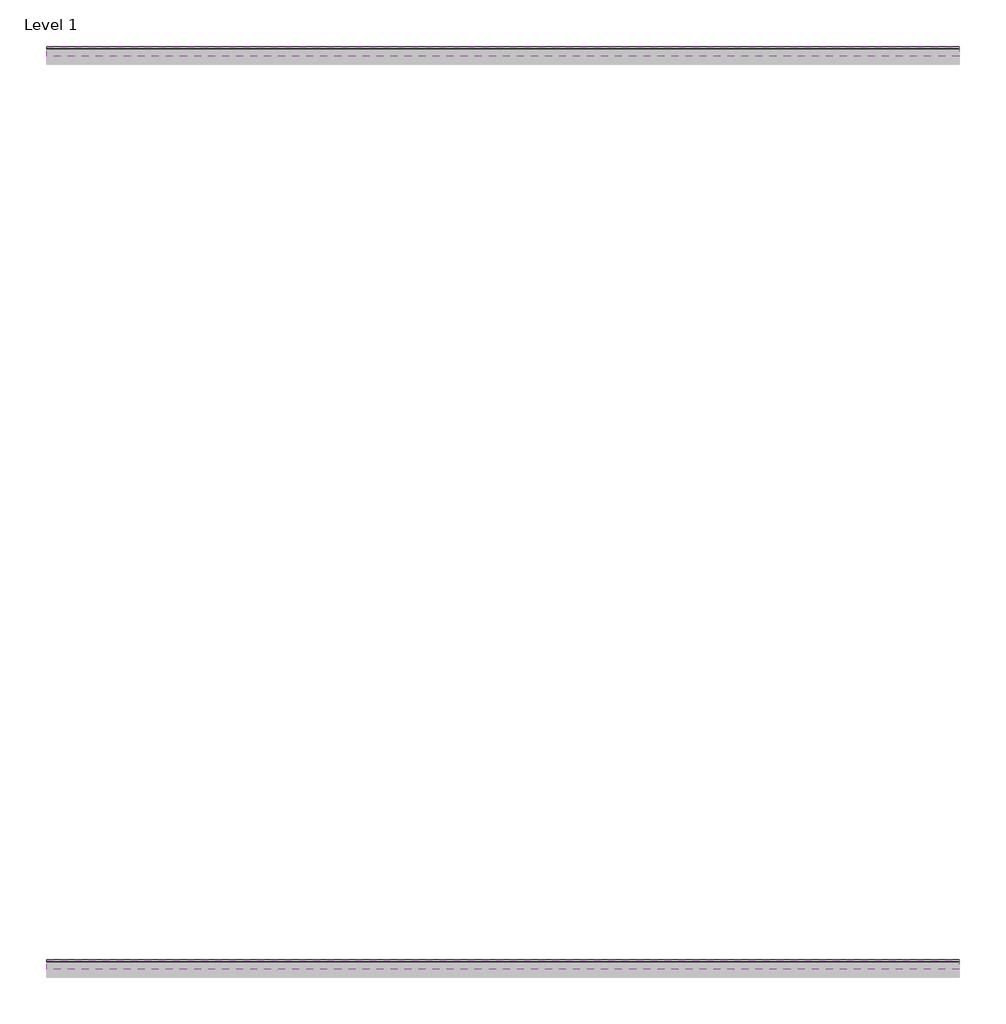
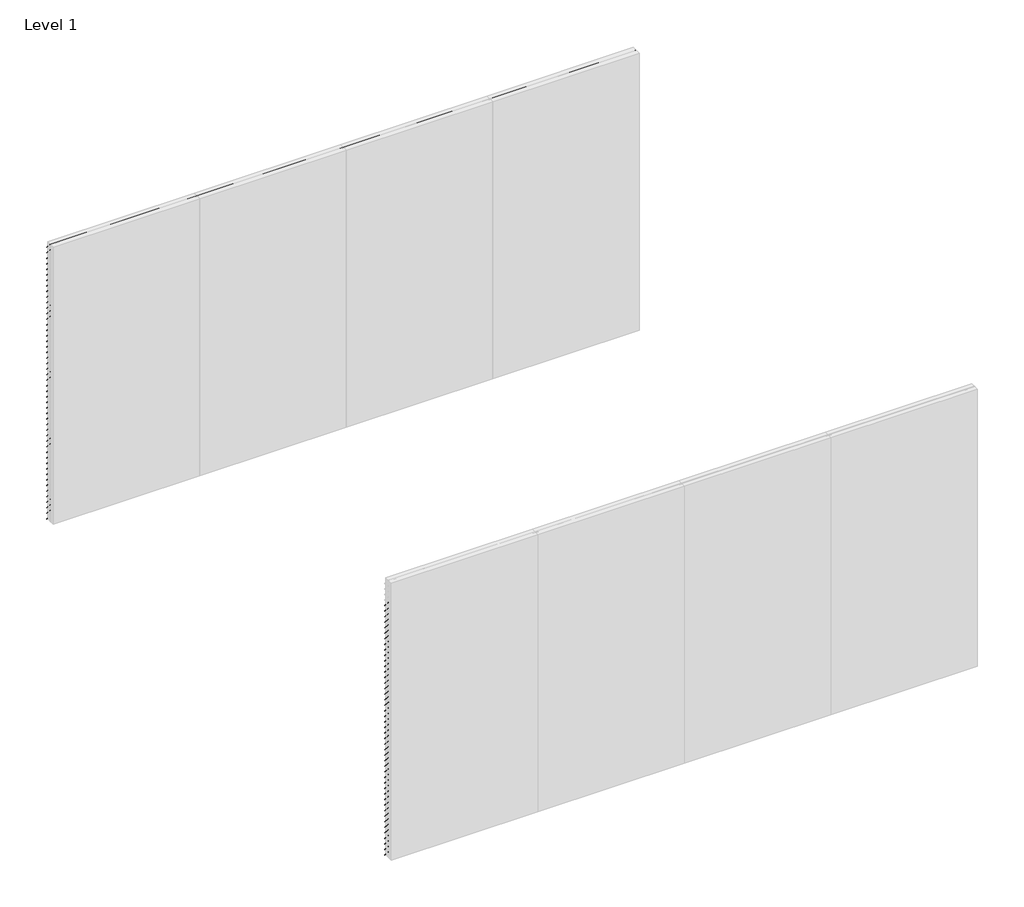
# One storey, part 3 of 3: 96 proxies.
"""IFC4 building model written with IfcOpenShell, lengths in millimetres."""

import ifcopenshell
import ifcopenshell.guid

model = None  # the IFC model being written
_history = None  # IfcOwnerHistory: only IFC2X3 demands one
_inside = {}  # id of a spatial element -> (the spatial element, [elements in it])
_under = {}  # id of a project, library or spatial element -> (it, [spatial elements below it])
_declared = {}  # id of a project -> (the project, [libraries it declares])
_typed = {}  # id of a type object -> (the type object, [elements of that type])
_made_of = {}  # id of a material, layer set ... -> (it, [elements and type objects made of it])


def new_model(schema):
    """Start an empty IFC model of exactly this schema.

    Asked for "IFC4X3", IfcOpenShell would pick the latest addendum, in which some entities
    have other attributes; the version numbers below select the first issue.
    IFC2X3 requires an IfcOwnerHistory on every rooted entity: one is made here for all.
    """
    global model, _history
    if schema == "IFC4X3":
        model = ifcopenshell.file(schema_version=(4, 3, 0, 0))
    else:
        model = ifcopenshell.file(schema=schema)
    _inside.clear()
    _under.clear()
    _declared.clear()
    _typed.clear()
    _made_of.clear()
    _history = None
    if model.schema == "IFC2X3":
        org = make("IfcOrganization", Name="unknown")
        user = make(
            "IfcPersonAndOrganization",
            ThePerson=make("IfcPerson", FamilyName="unknown"),
            TheOrganization=org,
        )
        app = make(
            "IfcApplication",
            ApplicationDeveloper=org,
            Version="unknown",
            ApplicationFullName="unknown",
            ApplicationIdentifier="unknown",
        )
        _history = make(
            "IfcOwnerHistory",
            OwningUser=user,
            OwningApplication=app,
            ChangeAction="ADDED",
            CreationDate=0,
        )
    return model


def make(cls, **values):
    """One entity of the class cls with the attributes given. An attribute that is None is left unset."""
    return model.create_entity(
        cls, **{name: value for name, value in values.items() if value is not None}
    )


def rooted(cls, **values):
    """An entity with a GlobalId (a new one), such as an element, a storey or a relation."""
    return make(cls, GlobalId=ifcopenshell.guid.new(), OwnerHistory=_history, **values)


def si_unit(unit_type, name, prefix=None):
    """IfcSIUnit, for example si_unit("LENGTHUNIT", "METRE", prefix="MILLI")."""
    return make("IfcSIUnit", UnitType=unit_type, Prefix=prefix, Name=name)


def assignment(units):
    """IfcUnitAssignment: the units of a project."""
    return None if units is None else make("IfcUnitAssignment", Units=units)


def point(xyz):
    """IfcCartesianPoint."""
    return None if xyz is None else make("IfcCartesianPoint", Coordinates=xyz)


def direction(xyz):
    """IfcDirection."""
    return None if xyz is None else make("IfcDirection", DirectionRatios=xyz)


def frame(location, z_axis=None, x_axis=None):
    """IfcAxis2Placement3D, a coordinate frame: its origin and axes. An axis left out is left unset."""
    return make(
        "IfcAxis2Placement3D",
        Location=point(location),
        Axis=direction(z_axis),
        RefDirection=direction(x_axis),
    )


def origin():
    """The frame at (0, 0, 0) with its axes left unset."""
    return frame((0.0, 0.0, 0.0))


def place(relative_to, where):
    """IfcLocalPlacement: puts the frame where relative to a parent placement (None: the world)."""
    return make(
        "IfcLocalPlacement", PlacementRelTo=relative_to, RelativePlacement=where
    )


def context(
    kind, dimensions, precision=None, world=None, true_north=None, identifier=None
):
    """IfcGeometricRepresentationContext, for example the 3D "Model" context."""
    return make(
        "IfcGeometricRepresentationContext",
        ContextIdentifier=identifier,
        ContextType=kind,
        CoordinateSpaceDimension=dimensions,
        Precision=precision,
        WorldCoordinateSystem=world,
        TrueNorth=true_north,
    )


def project(units=None, contexts=None):
    """IfcProject with its units and contexts."""
    return rooted(
        "IfcProject",
        Name="project",
        RepresentationContexts=contexts,
        UnitsInContext=assignment(units),
    )


def spatial(cls, under=None, at=None, **own):
    """A site, building, storey or space (cls), placed at a placement, below another one or the project."""
    s = rooted(cls, ObjectPlacement=at, **own)
    if under is not None:
        _under.setdefault(under.id(), (under, []))[1].append(s)
    return s


def polyline(points):
    """IfcPolyline through the points."""
    return make("IfcPolyline", Points=[point(p) for p in points])


def outline(outer, holes=None, kind="AREA"):
    """IfcArbitraryClosedProfileDef: a profile drawn as a closed curve; with holes, ...WithVoids."""
    if holes is None:
        return make("IfcArbitraryClosedProfileDef", ProfileType=kind, OuterCurve=outer)
    return make(
        "IfcArbitraryProfileDefWithVoids",
        ProfileType=kind,
        OuterCurve=outer,
        InnerCurves=holes,
    )


def extrude(swept, where, along, depth):
    """IfcExtrudedAreaSolid: the profile swept, set in the frame where, extruded along a direction by depth."""
    return make(
        "IfcExtrudedAreaSolid",
        SweptArea=swept,
        Position=where,
        ExtrudedDirection=direction(along),
        Depth=depth,
    )


def shape(context_of_items, identifier, shape_type, items):
    """IfcShapeRepresentation: the items that make up one representation, for example the "Body"."""
    return make(
        "IfcShapeRepresentation",
        ContextOfItems=context_of_items,
        RepresentationIdentifier=identifier,
        RepresentationType=shape_type,
        Items=items,
    )


def made_of(thing, what):
    """Note that an element or type object is made of a material, layer set ...; save() writes the relation."""
    if what is not None:
        _made_of.setdefault(what.id(), (what, []))[1].append(thing)
    return thing


def element(
    cls,
    number,
    at=None,
    inside=None,
    cuts=None,
    type_object=None,
    material=None,
    context=None,
    identifier="Body",
    shape_type=None,
    held_by="IfcProductDefinitionShape",
    body=None,
    shapes=None,
    **own,
):
    """One element of the class cls, such as IfcWall. Its Tag is "e" and its number.

    at: its placement. inside: the storey or other place that contains it. cuts: it is an
    opening in that element (IfcRelVoidsElement). A single representation is given by context,
    identifier, shape_type and body (its items); several are given by shapes. held_by: the class
    of the entity that holds the representations. save() writes the other relations.
    """
    e = rooted(cls, Tag="e%d" % number, ObjectPlacement=at, **own)
    if body is not None:
        shapes = [shape(context, identifier, shape_type, body)]
    if shapes is not None:
        e.Representation = make(held_by, Representations=shapes)
    if inside is not None:
        _inside.setdefault(inside.id(), (inside, []))[1].append(e)
    if cuts is not None:
        rooted(
            "IfcRelVoidsElement", RelatingBuildingElement=cuts, RelatedOpeningElement=e
        )
    if type_object is not None:
        _typed.setdefault(type_object.id(), (type_object, []))[1].append(e)
    return made_of(e, material)


def aggregate(whole, parts):
    """IfcRelAggregates: a whole, such as a stair, and the parts it consists of."""
    return rooted("IfcRelAggregates", RelatingObject=whole, RelatedObjects=parts)


def save(model, path):
    """Write the relations noted so far, then the file.

    IfcRelAggregates (storeys below a building ...), IfcRelContainedInSpatialStructure (elements
    in a storey), IfcRelDefinesByType, IfcRelAssociatesMaterial and IfcRelDeclares: one each for
    every whole, place, type object, material and project.
    """
    for whole, parts in _under.values():
        aggregate(whole, parts)
    for where, things in _inside.values():
        rooted(
            "IfcRelContainedInSpatialStructure",
            RelatedElements=things,
            RelatingStructure=where,
        )
    for kind, things in _typed.values():
        rooted("IfcRelDefinesByType", RelatedObjects=things, RelatingType=kind)
    for what, things in _made_of.values():
        rooted("IfcRelAssociatesMaterial", RelatedObjects=things, RelatingMaterial=what)
    for by, libraries in _declared.values():
        rooted("IfcRelDeclares", RelatingContext=by, RelatedDefinitions=libraries)
    model.write(path)


model = new_model("IFC4")

# Units and contexts
model_context = context("Model", 3, world=origin())
ifc_project = project(units=[si_unit("LENGTHUNIT", "METRE", prefix="MILLI")], contexts=[model_context])

# Site, building, storey
site = spatial("IfcSite", under=ifc_project)
building = spatial("IfcBuilding", under=site)
storey = spatial("IfcBuildingStorey", under=building, Name="Level 1", Elevation=0.0)

# Proxies
placement = place(None, origin())
element("IfcBuildingElementProxy", 1, Name="Wall Sweeps", at=placement, inside=storey, context=model_context, shape_type="SweptSolid", body=[
    extrude(outline(polyline([(-1995.0, 3000.0), (-1995.0, 2998.0), (-1933.0, 2929.0), (-1933.0, 2926.0), (-1997.0, 2997.2258065), (-1997.0, 3000.0), (-1995.0, 3000.0)])), frame((0.0, 0.0, 0.0), z_axis=(1.0, 0.0, 0.0), x_axis=(0.0, 1.0, 0.0)), (0.0, 0.0, 1.0), 6000.0),
])
element("IfcBuildingElementProxy", 2, Name="Wall Sweeps", at=placement, inside=storey, context=model_context, shape_type="SweptSolid", body=[
    extrude(outline(polyline([(-1995.0, 2940.0), (-1995.0, 2938.0), (-1933.0, 2869.0), (-1933.0, 2866.0), (-1997.0, 2937.2258065), (-1997.0, 2940.0), (-1995.0, 2940.0)])), frame((0.0, 0.0, 0.0), z_axis=(1.0, 0.0, 0.0), x_axis=(0.0, 1.0, 0.0)), (0.0, 0.0, 1.0), 6000.0),
])
element("IfcBuildingElementProxy", 3, Name="Wall Sweeps", at=placement, inside=storey, context=model_context, shape_type="SweptSolid", body=[
    extrude(outline(polyline([(-1995.0, 2880.0), (-1995.0, 2878.0), (-1933.0, 2809.0), (-1933.0, 2806.0), (-1997.0, 2877.2258065), (-1997.0, 2880.0), (-1995.0, 2880.0)])), frame((0.0, 0.0, 0.0), z_axis=(1.0, 0.0, 0.0), x_axis=(0.0, 1.0, 0.0)), (0.0, 0.0, 1.0), 6000.0),
])
element("IfcBuildingElementProxy", 4, Name="Wall Sweeps", at=placement, inside=storey, context=model_context, shape_type="SweptSolid", body=[
    extrude(outline(polyline([(-1995.0, 2820.0), (-1995.0, 2818.0), (-1933.0, 2749.0), (-1933.0, 2746.0), (-1997.0, 2817.2258065), (-1997.0, 2820.0), (-1995.0, 2820.0)])), frame((0.0, 0.0, 0.0), z_axis=(1.0, 0.0, 0.0), x_axis=(0.0, 1.0, 0.0)), (0.0, 0.0, 1.0), 6000.0),
])
element("IfcBuildingElementProxy", 5, Name="Wall Sweeps", at=placement, inside=storey, context=model_context, shape_type="SweptSolid", body=[
    extrude(outline(polyline([(-1995.0, 2760.0), (-1995.0, 2758.0), (-1933.0, 2689.0), (-1933.0, 2686.0), (-1997.0, 2757.2258065), (-1997.0, 2760.0), (-1995.0, 2760.0)])), frame((0.0, 0.0, 0.0), z_axis=(1.0, 0.0, 0.0), x_axis=(0.0, 1.0, 0.0)), (0.0, 0.0, 1.0), 6000.0),
])
element("IfcBuildingElementProxy", 6, Name="Wall Sweeps", at=placement, inside=storey, context=model_context, shape_type="SweptSolid", body=[
    extrude(outline(polyline([(-1995.0, 2700.0), (-1995.0, 2698.0), (-1933.0, 2629.0), (-1933.0, 2626.0), (-1997.0, 2697.2258065), (-1997.0, 2700.0), (-1995.0, 2700.0)])), frame((0.0, 0.0, 0.0), z_axis=(1.0, 0.0, 0.0), x_axis=(0.0, 1.0, 0.0)), (0.0, 0.0, 1.0), 6000.0),
])
element("IfcBuildingElementProxy", 7, Name="Wall Sweeps", at=placement, inside=storey, context=model_context, shape_type="SweptSolid", body=[
    extrude(outline(polyline([(-1995.0, 2640.0), (-1995.0, 2638.0), (-1933.0, 2569.0), (-1933.0, 2566.0), (-1997.0, 2637.2258065), (-1997.0, 2640.0), (-1995.0, 2640.0)])), frame((0.0, 0.0, 0.0), z_axis=(1.0, 0.0, 0.0), x_axis=(0.0, 1.0, 0.0)), (0.0, 0.0, 1.0), 6000.0),
])
element("IfcBuildingElementProxy", 8, Name="Wall Sweeps", at=placement, inside=storey, context=model_context, shape_type="SweptSolid", body=[
    extrude(outline(polyline([(-1995.0, 2580.0), (-1995.0, 2578.0), (-1933.0, 2509.0), (-1933.0, 2506.0), (-1997.0, 2577.2258065), (-1997.0, 2580.0), (-1995.0, 2580.0)])), frame((0.0, 0.0, 0.0), z_axis=(1.0, 0.0, 0.0), x_axis=(0.0, 1.0, 0.0)), (0.0, 0.0, 1.0), 6000.0),
])
element("IfcBuildingElementProxy", 9, Name="Wall Sweeps", at=placement, inside=storey, context=model_context, shape_type="SweptSolid", body=[
    extrude(outline(polyline([(-1995.0, 2520.0), (-1995.0, 2518.0), (-1933.0, 2449.0), (-1933.0, 2446.0), (-1997.0, 2517.2258065), (-1997.0, 2520.0), (-1995.0, 2520.0)])), frame((0.0, 0.0, 0.0), z_axis=(1.0, 0.0, 0.0), x_axis=(0.0, 1.0, 0.0)), (0.0, 0.0, 1.0), 6000.0),
])
element("IfcBuildingElementProxy", 10, Name="Wall Sweeps", at=placement, inside=storey, context=model_context, shape_type="SweptSolid", body=[
    extrude(outline(polyline([(-1995.0, 2460.0), (-1995.0, 2458.0), (-1933.0, 2389.0), (-1933.0, 2386.0), (-1997.0, 2457.2258065), (-1997.0, 2460.0), (-1995.0, 2460.0)])), frame((0.0, 0.0, 0.0), z_axis=(1.0, 0.0, 0.0), x_axis=(0.0, 1.0, 0.0)), (0.0, 0.0, 1.0), 6000.0),
])
element("IfcBuildingElementProxy", 11, Name="Wall Sweeps", at=placement, inside=storey, context=model_context, shape_type="SweptSolid", body=[
    extrude(outline(polyline([(-1995.0, 2400.0), (-1995.0, 2398.0), (-1933.0, 2329.0), (-1933.0, 2326.0), (-1997.0, 2397.2258065), (-1997.0, 2400.0), (-1995.0, 2400.0)])), frame((0.0, 0.0, 0.0), z_axis=(1.0, 0.0, 0.0), x_axis=(0.0, 1.0, 0.0)), (0.0, 0.0, 1.0), 6000.0),
])
element("IfcBuildingElementProxy", 12, Name="Wall Sweeps", at=placement, inside=storey, context=model_context, shape_type="SweptSolid", body=[
    extrude(outline(polyline([(-1995.0, 2340.0), (-1995.0, 2338.0), (-1933.0, 2269.0), (-1933.0, 2266.0), (-1997.0, 2337.2258065), (-1997.0, 2340.0), (-1995.0, 2340.0)])), frame((0.0, 0.0, 0.0), z_axis=(1.0, 0.0, 0.0), x_axis=(0.0, 1.0, 0.0)), (0.0, 0.0, 1.0), 6000.0),
])
element("IfcBuildingElementProxy", 13, Name="Wall Sweeps", at=placement, inside=storey, context=model_context, shape_type="SweptSolid", body=[
    extrude(outline(polyline([(-1995.0, 2280.0), (-1995.0, 2278.0), (-1933.0, 2209.0), (-1933.0, 2206.0), (-1997.0, 2277.2258065), (-1997.0, 2280.0), (-1995.0, 2280.0)])), frame((0.0, 0.0, 0.0), z_axis=(1.0, 0.0, 0.0), x_axis=(0.0, 1.0, 0.0)), (0.0, 0.0, 1.0), 6000.0),
])
element("IfcBuildingElementProxy", 14, Name="Wall Sweeps", at=placement, inside=storey, context=model_context, shape_type="SweptSolid", body=[
    extrude(outline(polyline([(-1995.0, 2220.0), (-1995.0, 2218.0), (-1933.0, 2149.0), (-1933.0, 2146.0), (-1997.0, 2217.2258065), (-1997.0, 2220.0), (-1995.0, 2220.0)])), frame((0.0, 0.0, 0.0), z_axis=(1.0, 0.0, 0.0), x_axis=(0.0, 1.0, 0.0)), (0.0, 0.0, 1.0), 6000.0),
])
element("IfcBuildingElementProxy", 15, Name="Wall Sweeps", at=placement, inside=storey, context=model_context, shape_type="SweptSolid", body=[
    extrude(outline(polyline([(-1995.0, 2160.0), (-1995.0, 2158.0), (-1933.0, 2089.0), (-1933.0, 2086.0), (-1997.0, 2157.2258065), (-1997.0, 2160.0), (-1995.0, 2160.0)])), frame((0.0, 0.0, 0.0), z_axis=(1.0, 0.0, 0.0), x_axis=(0.0, 1.0, 0.0)), (0.0, 0.0, 1.0), 6000.0),
])
element("IfcBuildingElementProxy", 16, Name="Wall Sweeps", at=placement, inside=storey, context=model_context, shape_type="SweptSolid", body=[
    extrude(outline(polyline([(-1995.0, 2100.0), (-1995.0, 2098.0), (-1933.0, 2029.0), (-1933.0, 2026.0), (-1997.0, 2097.2258065), (-1997.0, 2100.0), (-1995.0, 2100.0)])), frame((0.0, 0.0, 0.0), z_axis=(1.0, 0.0, 0.0), x_axis=(0.0, 1.0, 0.0)), (0.0, 0.0, 1.0), 6000.0),
])
element("IfcBuildingElementProxy", 17, Name="Wall Sweeps", at=placement, inside=storey, context=model_context, shape_type="SweptSolid", body=[
    extrude(outline(polyline([(-1995.0, 2040.0), (-1995.0, 2038.0), (-1933.0, 1969.0), (-1933.0, 1966.0), (-1997.0, 2037.2258065), (-1997.0, 2040.0), (-1995.0, 2040.0)])), frame((0.0, 0.0, 0.0), z_axis=(1.0, 0.0, 0.0), x_axis=(0.0, 1.0, 0.0)), (0.0, 0.0, 1.0), 6000.0),
])
element("IfcBuildingElementProxy", 18, Name="Wall Sweeps", at=placement, inside=storey, context=model_context, shape_type="SweptSolid", body=[
    extrude(outline(polyline([(-1995.0, 1980.0), (-1995.0, 1978.0), (-1933.0, 1909.0), (-1933.0, 1906.0), (-1997.0, 1977.2258065), (-1997.0, 1980.0), (-1995.0, 1980.0)])), frame((0.0, 0.0, 0.0), z_axis=(1.0, 0.0, 0.0), x_axis=(0.0, 1.0, 0.0)), (0.0, 0.0, 1.0), 6000.0),
])
element("IfcBuildingElementProxy", 19, Name="Wall Sweeps", at=placement, inside=storey, context=model_context, shape_type="SweptSolid", body=[
    extrude(outline(polyline([(-1995.0, 1920.0), (-1995.0, 1918.0), (-1933.0, 1849.0), (-1933.0, 1846.0), (-1997.0, 1917.2258065), (-1997.0, 1920.0), (-1995.0, 1920.0)])), frame((0.0, 0.0, 0.0), z_axis=(1.0, 0.0, 0.0), x_axis=(0.0, 1.0, 0.0)), (0.0, 0.0, 1.0), 6000.0),
])
element("IfcBuildingElementProxy", 20, Name="Wall Sweeps", at=placement, inside=storey, context=model_context, shape_type="SweptSolid", body=[
    extrude(outline(polyline([(-1995.0, 1860.0), (-1995.0, 1858.0), (-1933.0, 1789.0), (-1933.0, 1786.0), (-1997.0, 1857.2258065), (-1997.0, 1860.0), (-1995.0, 1860.0)])), frame((0.0, 0.0, 0.0), z_axis=(1.0, 0.0, 0.0), x_axis=(0.0, 1.0, 0.0)), (0.0, 0.0, 1.0), 6000.0),
])
element("IfcBuildingElementProxy", 21, Name="Wall Sweeps", at=placement, inside=storey, context=model_context, shape_type="SweptSolid", body=[
    extrude(outline(polyline([(-1995.0, 1800.0), (-1995.0, 1798.0), (-1933.0, 1729.0), (-1933.0, 1726.0), (-1997.0, 1797.2258065), (-1997.0, 1800.0), (-1995.0, 1800.0)])), frame((0.0, 0.0, 0.0), z_axis=(1.0, 0.0, 0.0), x_axis=(0.0, 1.0, 0.0)), (0.0, 0.0, 1.0), 6000.0),
])
element("IfcBuildingElementProxy", 22, Name="Wall Sweeps", at=placement, inside=storey, context=model_context, shape_type="SweptSolid", body=[
    extrude(outline(polyline([(-1995.0, 1740.0), (-1995.0, 1738.0), (-1933.0, 1669.0), (-1933.0, 1666.0), (-1997.0, 1737.2258065), (-1997.0, 1740.0), (-1995.0, 1740.0)])), frame((0.0, 0.0, 0.0), z_axis=(1.0, 0.0, 0.0), x_axis=(0.0, 1.0, 0.0)), (0.0, 0.0, 1.0), 6000.0),
])
element("IfcBuildingElementProxy", 23, Name="Wall Sweeps", at=placement, inside=storey, context=model_context, shape_type="SweptSolid", body=[
    extrude(outline(polyline([(-1995.0, 1680.0), (-1995.0, 1678.0), (-1933.0, 1609.0), (-1933.0, 1606.0), (-1997.0, 1677.2258065), (-1997.0, 1680.0), (-1995.0, 1680.0)])), frame((0.0, 0.0, 0.0), z_axis=(1.0, 0.0, 0.0), x_axis=(0.0, 1.0, 0.0)), (0.0, 0.0, 1.0), 6000.0),
])
element("IfcBuildingElementProxy", 24, Name="Wall Sweeps", at=placement, inside=storey, context=model_context, shape_type="SweptSolid", body=[
    extrude(outline(polyline([(-1995.0, 1620.0), (-1995.0, 1618.0), (-1933.0, 1549.0), (-1933.0, 1546.0), (-1997.0, 1617.2258065), (-1997.0, 1620.0), (-1995.0, 1620.0)])), frame((0.0, 0.0, 0.0), z_axis=(1.0, 0.0, 0.0), x_axis=(0.0, 1.0, 0.0)), (0.0, 0.0, 1.0), 6000.0),
])
element("IfcBuildingElementProxy", 25, Name="Wall Sweeps", at=placement, inside=storey, context=model_context, shape_type="SweptSolid", body=[
    extrude(outline(polyline([(-1995.0, 1560.0), (-1995.0, 1558.0), (-1933.0, 1489.0), (-1933.0, 1486.0), (-1997.0, 1557.2258065), (-1997.0, 1560.0), (-1995.0, 1560.0)])), frame((0.0, 0.0, 0.0), z_axis=(1.0, 0.0, 0.0), x_axis=(0.0, 1.0, 0.0)), (0.0, 0.0, 1.0), 6000.0),
])
element("IfcBuildingElementProxy", 26, Name="Wall Sweeps", at=placement, inside=storey, context=model_context, shape_type="SweptSolid", body=[
    extrude(outline(polyline([(-1995.0, 1500.0), (-1995.0, 1498.0), (-1933.0, 1429.0), (-1933.0, 1426.0), (-1997.0, 1497.2258065), (-1997.0, 1500.0), (-1995.0, 1500.0)])), frame((0.0, 0.0, 0.0), z_axis=(1.0, 0.0, 0.0), x_axis=(0.0, 1.0, 0.0)), (0.0, 0.0, 1.0), 6000.0),
])
element("IfcBuildingElementProxy", 27, Name="Wall Sweeps", at=placement, inside=storey, context=model_context, shape_type="SweptSolid", body=[
    extrude(outline(polyline([(-1995.0, 1440.0), (-1995.0, 1438.0), (-1933.0, 1369.0), (-1933.0, 1366.0), (-1997.0, 1437.2258065), (-1997.0, 1440.0), (-1995.0, 1440.0)])), frame((0.0, 0.0, 0.0), z_axis=(1.0, 0.0, 0.0), x_axis=(0.0, 1.0, 0.0)), (0.0, 0.0, 1.0), 6000.0),
])
element("IfcBuildingElementProxy", 28, Name="Wall Sweeps", at=placement, inside=storey, context=model_context, shape_type="SweptSolid", body=[
    extrude(outline(polyline([(-1995.0, 1380.0), (-1995.0, 1378.0), (-1933.0, 1309.0), (-1933.0, 1306.0), (-1997.0, 1377.2258065), (-1997.0, 1380.0), (-1995.0, 1380.0)])), frame((0.0, 0.0, 0.0), z_axis=(1.0, 0.0, 0.0), x_axis=(0.0, 1.0, 0.0)), (0.0, 0.0, 1.0), 6000.0),
])
element("IfcBuildingElementProxy", 29, Name="Wall Sweeps", at=placement, inside=storey, context=model_context, shape_type="SweptSolid", body=[
    extrude(outline(polyline([(-1995.0, 1320.0), (-1995.0, 1318.0), (-1933.0, 1249.0), (-1933.0, 1246.0), (-1997.0, 1317.2258065), (-1997.0, 1320.0), (-1995.0, 1320.0)])), frame((0.0, 0.0, 0.0), z_axis=(1.0, 0.0, 0.0), x_axis=(0.0, 1.0, 0.0)), (0.0, 0.0, 1.0), 6000.0),
])
element("IfcBuildingElementProxy", 30, Name="Wall Sweeps", at=placement, inside=storey, context=model_context, shape_type="SweptSolid", body=[
    extrude(outline(polyline([(-1995.0, 1260.0), (-1995.0, 1258.0), (-1933.0, 1189.0), (-1933.0, 1186.0), (-1997.0, 1257.2258065), (-1997.0, 1260.0), (-1995.0, 1260.0)])), frame((0.0, 0.0, 0.0), z_axis=(1.0, 0.0, 0.0), x_axis=(0.0, 1.0, 0.0)), (0.0, 0.0, 1.0), 6000.0),
])
element("IfcBuildingElementProxy", 31, Name="Wall Sweeps", at=placement, inside=storey, context=model_context, shape_type="SweptSolid", body=[
    extrude(outline(polyline([(-1995.0, 1200.0), (-1995.0, 1198.0), (-1933.0, 1129.0), (-1933.0, 1126.0), (-1997.0, 1197.2258065), (-1997.0, 1200.0), (-1995.0, 1200.0)])), frame((0.0, 0.0, 0.0), z_axis=(1.0, 0.0, 0.0), x_axis=(0.0, 1.0, 0.0)), (0.0, 0.0, 1.0), 6000.0),
])
element("IfcBuildingElementProxy", 32, Name="Wall Sweeps", at=placement, inside=storey, context=model_context, shape_type="SweptSolid", body=[
    extrude(outline(polyline([(-1995.0, 1140.0), (-1995.0, 1138.0), (-1933.0, 1069.0), (-1933.0, 1066.0), (-1997.0, 1137.2258065), (-1997.0, 1140.0), (-1995.0, 1140.0)])), frame((0.0, 0.0, 0.0), z_axis=(1.0, 0.0, 0.0), x_axis=(0.0, 1.0, 0.0)), (0.0, 0.0, 1.0), 6000.0),
])
element("IfcBuildingElementProxy", 33, Name="Wall Sweeps", at=placement, inside=storey, context=model_context, shape_type="SweptSolid", body=[
    extrude(outline(polyline([(-1995.0, 1080.0), (-1995.0, 1078.0), (-1933.0, 1009.0), (-1933.0, 1006.0), (-1997.0, 1077.2258065), (-1997.0, 1080.0), (-1995.0, 1080.0)])), frame((0.0, 0.0, 0.0), z_axis=(1.0, 0.0, 0.0), x_axis=(0.0, 1.0, 0.0)), (0.0, 0.0, 1.0), 6000.0),
])
element("IfcBuildingElementProxy", 34, Name="Wall Sweeps", at=placement, inside=storey, context=model_context, shape_type="SweptSolid", body=[
    extrude(outline(polyline([(-1995.0, 1020.0), (-1995.0, 1018.0), (-1933.0, 949.0), (-1933.0, 946.0), (-1997.0, 1017.2258065), (-1997.0, 1020.0), (-1995.0, 1020.0)])), frame((0.0, 0.0, 0.0), z_axis=(1.0, 0.0, 0.0), x_axis=(0.0, 1.0, 0.0)), (0.0, 0.0, 1.0), 6000.0),
])
element("IfcBuildingElementProxy", 35, Name="Wall Sweeps", at=placement, inside=storey, context=model_context, shape_type="SweptSolid", body=[
    extrude(outline(polyline([(-1995.0, 960.0), (-1995.0, 958.0), (-1933.0, 889.0), (-1933.0, 886.0), (-1997.0, 957.2258065), (-1997.0, 960.0), (-1995.0, 960.0)])), frame((0.0, 0.0, 0.0), z_axis=(1.0, 0.0, 0.0), x_axis=(0.0, 1.0, 0.0)), (0.0, 0.0, 1.0), 6000.0),
])
element("IfcBuildingElementProxy", 36, Name="Wall Sweeps", at=placement, inside=storey, context=model_context, shape_type="SweptSolid", body=[
    extrude(outline(polyline([(-1995.0, 900.0), (-1995.0, 898.0), (-1933.0, 829.0), (-1933.0, 826.0), (-1997.0, 897.2258065), (-1997.0, 900.0), (-1995.0, 900.0)])), frame((0.0, 0.0, 0.0), z_axis=(1.0, 0.0, 0.0), x_axis=(0.0, 1.0, 0.0)), (0.0, 0.0, 1.0), 6000.0),
])
element("IfcBuildingElementProxy", 37, Name="Wall Sweeps", at=placement, inside=storey, context=model_context, shape_type="SweptSolid", body=[
    extrude(outline(polyline([(-1995.0, 840.0), (-1995.0, 838.0), (-1933.0, 769.0), (-1933.0, 766.0), (-1997.0, 837.2258065), (-1997.0, 840.0), (-1995.0, 840.0)])), frame((0.0, 0.0, 0.0), z_axis=(1.0, 0.0, 0.0), x_axis=(0.0, 1.0, 0.0)), (0.0, 0.0, 1.0), 6000.0),
])
element("IfcBuildingElementProxy", 38, Name="Wall Sweeps", at=placement, inside=storey, context=model_context, shape_type="SweptSolid", body=[
    extrude(outline(polyline([(-1995.0, 780.0), (-1995.0, 778.0), (-1933.0, 709.0), (-1933.0, 706.0), (-1997.0, 777.2258065), (-1997.0, 780.0), (-1995.0, 780.0)])), frame((0.0, 0.0, 0.0), z_axis=(1.0, 0.0, 0.0), x_axis=(0.0, 1.0, 0.0)), (0.0, 0.0, 1.0), 6000.0),
])
element("IfcBuildingElementProxy", 39, Name="Wall Sweeps", at=placement, inside=storey, context=model_context, shape_type="SweptSolid", body=[
    extrude(outline(polyline([(-1995.0, 720.0), (-1995.0, 718.0), (-1933.0, 649.0), (-1933.0, 646.0), (-1997.0, 717.2258065), (-1997.0, 720.0), (-1995.0, 720.0)])), frame((0.0, 0.0, 0.0), z_axis=(1.0, 0.0, 0.0), x_axis=(0.0, 1.0, 0.0)), (0.0, 0.0, 1.0), 6000.0),
])
element("IfcBuildingElementProxy", 40, Name="Wall Sweeps", at=placement, inside=storey, context=model_context, shape_type="SweptSolid", body=[
    extrude(outline(polyline([(-1995.0, 660.0), (-1995.0, 658.0), (-1933.0, 589.0), (-1933.0, 586.0), (-1997.0, 657.2258065), (-1997.0, 660.0), (-1995.0, 660.0)])), frame((0.0, 0.0, 0.0), z_axis=(1.0, 0.0, 0.0), x_axis=(0.0, 1.0, 0.0)), (0.0, 0.0, 1.0), 6000.0),
])
element("IfcBuildingElementProxy", 41, Name="Wall Sweeps", at=placement, inside=storey, context=model_context, shape_type="SweptSolid", body=[
    extrude(outline(polyline([(-1995.0, 600.0), (-1995.0, 598.0), (-1933.0, 529.0), (-1933.0, 526.0), (-1997.0, 597.2258065), (-1997.0, 600.0), (-1995.0, 600.0)])), frame((0.0, 0.0, 0.0), z_axis=(1.0, 0.0, 0.0), x_axis=(0.0, 1.0, 0.0)), (0.0, 0.0, 1.0), 6000.0),
])
element("IfcBuildingElementProxy", 42, Name="Wall Sweeps", at=placement, inside=storey, context=model_context, shape_type="SweptSolid", body=[
    extrude(outline(polyline([(-1995.0, 540.0), (-1995.0, 538.0), (-1933.0, 469.0), (-1933.0, 466.0), (-1997.0, 537.2258065), (-1997.0, 540.0), (-1995.0, 540.0)])), frame((0.0, 0.0, 0.0), z_axis=(1.0, 0.0, 0.0), x_axis=(0.0, 1.0, 0.0)), (0.0, 0.0, 1.0), 6000.0),
])
element("IfcBuildingElementProxy", 43, Name="Wall Sweeps", at=placement, inside=storey, context=model_context, shape_type="SweptSolid", body=[
    extrude(outline(polyline([(-1995.0, 480.0), (-1995.0, 478.0), (-1933.0, 409.0), (-1933.0, 406.0), (-1997.0, 477.2258065), (-1997.0, 480.0), (-1995.0, 480.0)])), frame((0.0, 0.0, 0.0), z_axis=(1.0, 0.0, 0.0), x_axis=(0.0, 1.0, 0.0)), (0.0, 0.0, 1.0), 6000.0),
])
element("IfcBuildingElementProxy", 44, Name="Wall Sweeps", at=placement, inside=storey, context=model_context, shape_type="SweptSolid", body=[
    extrude(outline(polyline([(-1995.0, 420.0), (-1995.0, 418.0), (-1933.0, 349.0), (-1933.0, 346.0), (-1997.0, 417.2258065), (-1997.0, 420.0), (-1995.0, 420.0)])), frame((0.0, 0.0, 0.0), z_axis=(1.0, 0.0, 0.0), x_axis=(0.0, 1.0, 0.0)), (0.0, 0.0, 1.0), 6000.0),
])
element("IfcBuildingElementProxy", 45, Name="Wall Sweeps", at=placement, inside=storey, context=model_context, shape_type="SweptSolid", body=[
    extrude(outline(polyline([(-1995.0, 360.0), (-1995.0, 358.0), (-1933.0, 289.0), (-1933.0, 286.0), (-1997.0, 357.2258065), (-1997.0, 360.0), (-1995.0, 360.0)])), frame((0.0, 0.0, 0.0), z_axis=(1.0, 0.0, 0.0), x_axis=(0.0, 1.0, 0.0)), (0.0, 0.0, 1.0), 6000.0),
])
element("IfcBuildingElementProxy", 46, Name="Wall Sweeps", at=placement, inside=storey, context=model_context, shape_type="SweptSolid", body=[
    extrude(outline(polyline([(-1995.0, 300.0), (-1995.0, 298.0), (-1933.0, 229.0), (-1933.0, 226.0), (-1997.0, 297.2258065), (-1997.0, 300.0), (-1995.0, 300.0)])), frame((0.0, 0.0, 0.0), z_axis=(1.0, 0.0, 0.0), x_axis=(0.0, 1.0, 0.0)), (0.0, 0.0, 1.0), 6000.0),
])
element("IfcBuildingElementProxy", 47, Name="Wall Sweeps", at=placement, inside=storey, context=model_context, shape_type="SweptSolid", body=[
    extrude(outline(polyline([(-1995.0, 240.0), (-1995.0, 238.0), (-1933.0, 169.0), (-1933.0, 166.0), (-1997.0, 237.2258065), (-1997.0, 240.0), (-1995.0, 240.0)])), frame((0.0, 0.0, 0.0), z_axis=(1.0, 0.0, 0.0), x_axis=(0.0, 1.0, 0.0)), (0.0, 0.0, 1.0), 6000.0),
])
element("IfcBuildingElementProxy", 48, Name="Wall Sweeps", at=placement, inside=storey, context=model_context, shape_type="SweptSolid", body=[
    extrude(outline(polyline([(-1995.0, 180.0), (-1995.0, 178.0), (-1933.0, 109.0), (-1933.0, 106.0), (-1997.0, 177.2258065), (-1997.0, 180.0), (-1995.0, 180.0)])), frame((0.0, 0.0, 0.0), z_axis=(1.0, 0.0, 0.0), x_axis=(0.0, 1.0, 0.0)), (0.0, 0.0, 1.0), 6000.0),
])
element("IfcBuildingElementProxy", 49, Name="Wall Sweeps", at=placement, inside=storey, context=model_context, shape_type="SweptSolid", body=[
    extrude(outline(polyline([(-1995.0, 120.0), (-1995.0, 118.0), (-1933.0, 49.0), (-1933.0, 46.0), (-1997.0, 117.2258065), (-1997.0, 120.0), (-1995.0, 120.0)])), frame((0.0, 0.0, 0.0), z_axis=(1.0, 0.0, 0.0), x_axis=(0.0, 1.0, 0.0)), (0.0, 0.0, 1.0), 6000.0),
])
element("IfcBuildingElementProxy", 50, Name="Wall Sweeps", at=placement, inside=storey, context=model_context, shape_type="SweptSolid", body=[
    extrude(outline(polyline([(-1995.0, 60.0), (-1995.0, 58.0), (-1933.0, -11.0), (-1933.0, -14.0), (-1997.0, 57.2258065), (-1997.0, 60.0), (-1995.0, 60.0)])), frame((0.0, 0.0, 0.0), z_axis=(1.0, 0.0, 0.0), x_axis=(0.0, 1.0, 0.0)), (0.0, 0.0, 1.0), 6000.0),
])
element("IfcBuildingElementProxy", 51, Name="Wall Sweeps", at=placement, inside=storey, context=model_context, shape_type="SweptSolid", body=[
    extrude(outline(polyline([(-7995.0, 2760.0), (-7995.0, 2758.0), (-7933.0, 2689.0), (-7933.0, 2686.0), (-7997.0, 2757.2258065), (-7997.0, 2760.0), (-7995.0, 2760.0)])), frame((0.0, 0.0, 0.0), z_axis=(1.0, 0.0, 0.0), x_axis=(0.0, 1.0, 0.0)), (0.0, 0.0, 1.0), 6000.0),
])
element("IfcBuildingElementProxy", 52, Name="Wall Sweeps", at=placement, inside=storey, context=model_context, shape_type="SweptSolid", body=[
    extrude(outline(polyline([(-7995.0, 2700.0), (-7995.0, 2698.0), (-7933.0, 2629.0), (-7933.0, 2626.0), (-7997.0, 2697.2258065), (-7997.0, 2700.0), (-7995.0, 2700.0)])), frame((0.0, 0.0, 0.0), z_axis=(1.0, 0.0, 0.0), x_axis=(0.0, 1.0, 0.0)), (0.0, 0.0, 1.0), 6000.0),
])
element("IfcBuildingElementProxy", 53, Name="Wall Sweeps", at=placement, inside=storey, context=model_context, shape_type="SweptSolid", body=[
    extrude(outline(polyline([(-7995.0, 2640.0), (-7995.0, 2638.0), (-7933.0, 2569.0), (-7933.0, 2566.0), (-7997.0, 2637.2258065), (-7997.0, 2640.0), (-7995.0, 2640.0)])), frame((0.0, 0.0, 0.0), z_axis=(1.0, 0.0, 0.0), x_axis=(0.0, 1.0, 0.0)), (0.0, 0.0, 1.0), 6000.0),
])
element("IfcBuildingElementProxy", 54, Name="Wall Sweeps", at=placement, inside=storey, context=model_context, shape_type="SweptSolid", body=[
    extrude(outline(polyline([(-7995.0, 2580.0), (-7995.0, 2578.0), (-7933.0, 2509.0), (-7933.0, 2506.0), (-7997.0, 2577.2258065), (-7997.0, 2580.0), (-7995.0, 2580.0)])), frame((0.0, 0.0, 0.0), z_axis=(1.0, 0.0, 0.0), x_axis=(0.0, 1.0, 0.0)), (0.0, 0.0, 1.0), 6000.0),
])
element("IfcBuildingElementProxy", 55, Name="Wall Sweeps", at=placement, inside=storey, context=model_context, shape_type="SweptSolid", body=[
    extrude(outline(polyline([(-7995.0, 2520.0), (-7995.0, 2518.0), (-7933.0, 2449.0), (-7933.0, 2446.0), (-7997.0, 2517.2258065), (-7997.0, 2520.0), (-7995.0, 2520.0)])), frame((0.0, 0.0, 0.0), z_axis=(1.0, 0.0, 0.0), x_axis=(0.0, 1.0, 0.0)), (0.0, 0.0, 1.0), 6000.0),
])
element("IfcBuildingElementProxy", 56, Name="Wall Sweeps", at=placement, inside=storey, context=model_context, shape_type="SweptSolid", body=[
    extrude(outline(polyline([(-7995.0, 2460.0), (-7995.0, 2458.0), (-7933.0, 2389.0), (-7933.0, 2386.0), (-7997.0, 2457.2258065), (-7997.0, 2460.0), (-7995.0, 2460.0)])), frame((0.0, 0.0, 0.0), z_axis=(1.0, 0.0, 0.0), x_axis=(0.0, 1.0, 0.0)), (0.0, 0.0, 1.0), 6000.0),
])
element("IfcBuildingElementProxy", 57, Name="Wall Sweeps", at=placement, inside=storey, context=model_context, shape_type="SweptSolid", body=[
    extrude(outline(polyline([(-7995.0, 2400.0), (-7995.0, 2398.0), (-7933.0, 2329.0), (-7933.0, 2326.0), (-7997.0, 2397.2258065), (-7997.0, 2400.0), (-7995.0, 2400.0)])), frame((0.0, 0.0, 0.0), z_axis=(1.0, 0.0, 0.0), x_axis=(0.0, 1.0, 0.0)), (0.0, 0.0, 1.0), 6000.0),
])
element("IfcBuildingElementProxy", 58, Name="Wall Sweeps", at=placement, inside=storey, context=model_context, shape_type="SweptSolid", body=[
    extrude(outline(polyline([(-7995.0, 2340.0), (-7995.0, 2338.0), (-7933.0, 2269.0), (-7933.0, 2266.0), (-7997.0, 2337.2258065), (-7997.0, 2340.0), (-7995.0, 2340.0)])), frame((0.0, 0.0, 0.0), z_axis=(1.0, 0.0, 0.0), x_axis=(0.0, 1.0, 0.0)), (0.0, 0.0, 1.0), 6000.0),
])
element("IfcBuildingElementProxy", 59, Name="Wall Sweeps", at=placement, inside=storey, context=model_context, shape_type="SweptSolid", body=[
    extrude(outline(polyline([(-7995.0, 2280.0), (-7995.0, 2278.0), (-7933.0, 2209.0), (-7933.0, 2206.0), (-7997.0, 2277.2258065), (-7997.0, 2280.0), (-7995.0, 2280.0)])), frame((0.0, 0.0, 0.0), z_axis=(1.0, 0.0, 0.0), x_axis=(0.0, 1.0, 0.0)), (0.0, 0.0, 1.0), 6000.0),
])
element("IfcBuildingElementProxy", 60, Name="Wall Sweeps", at=placement, inside=storey, context=model_context, shape_type="SweptSolid", body=[
    extrude(outline(polyline([(-7995.0, 2220.0), (-7995.0, 2218.0), (-7933.0, 2149.0), (-7933.0, 2146.0), (-7997.0, 2217.2258065), (-7997.0, 2220.0), (-7995.0, 2220.0)])), frame((0.0, 0.0, 0.0), z_axis=(1.0, 0.0, 0.0), x_axis=(0.0, 1.0, 0.0)), (0.0, 0.0, 1.0), 6000.0),
])
element("IfcBuildingElementProxy", 61, Name="Wall Sweeps", at=placement, inside=storey, context=model_context, shape_type="SweptSolid", body=[
    extrude(outline(polyline([(-7995.0, 2160.0), (-7995.0, 2158.0), (-7933.0, 2089.0), (-7933.0, 2086.0), (-7997.0, 2157.2258065), (-7997.0, 2160.0), (-7995.0, 2160.0)])), frame((0.0, 0.0, 0.0), z_axis=(1.0, 0.0, 0.0), x_axis=(0.0, 1.0, 0.0)), (0.0, 0.0, 1.0), 6000.0),
])
element("IfcBuildingElementProxy", 62, Name="Wall Sweeps", at=placement, inside=storey, context=model_context, shape_type="SweptSolid", body=[
    extrude(outline(polyline([(-7995.0, 2100.0), (-7995.0, 2098.0), (-7933.0, 2029.0), (-7933.0, 2026.0), (-7997.0, 2097.2258065), (-7997.0, 2100.0), (-7995.0, 2100.0)])), frame((0.0, 0.0, 0.0), z_axis=(1.0, 0.0, 0.0), x_axis=(0.0, 1.0, 0.0)), (0.0, 0.0, 1.0), 6000.0),
])
element("IfcBuildingElementProxy", 63, Name="Wall Sweeps", at=placement, inside=storey, context=model_context, shape_type="SweptSolid", body=[
    extrude(outline(polyline([(-7995.0, 2040.0), (-7995.0, 2038.0), (-7933.0, 1969.0), (-7933.0, 1966.0), (-7997.0, 2037.2258065), (-7997.0, 2040.0), (-7995.0, 2040.0)])), frame((0.0, 0.0, 0.0), z_axis=(1.0, 0.0, 0.0), x_axis=(0.0, 1.0, 0.0)), (0.0, 0.0, 1.0), 6000.0),
])
element("IfcBuildingElementProxy", 64, Name="Wall Sweeps", at=placement, inside=storey, context=model_context, shape_type="SweptSolid", body=[
    extrude(outline(polyline([(-7995.0, 1980.0), (-7995.0, 1978.0), (-7933.0, 1909.0), (-7933.0, 1906.0), (-7997.0, 1977.2258065), (-7997.0, 1980.0), (-7995.0, 1980.0)])), frame((0.0, 0.0, 0.0), z_axis=(1.0, 0.0, 0.0), x_axis=(0.0, 1.0, 0.0)), (0.0, 0.0, 1.0), 6000.0),
])
element("IfcBuildingElementProxy", 65, Name="Wall Sweeps", at=placement, inside=storey, context=model_context, shape_type="SweptSolid", body=[
    extrude(outline(polyline([(-7995.0, 1920.0), (-7995.0, 1918.0), (-7933.0, 1849.0), (-7933.0, 1846.0), (-7997.0, 1917.2258065), (-7997.0, 1920.0), (-7995.0, 1920.0)])), frame((0.0, 0.0, 0.0), z_axis=(1.0, 0.0, 0.0), x_axis=(0.0, 1.0, 0.0)), (0.0, 0.0, 1.0), 6000.0),
])
element("IfcBuildingElementProxy", 66, Name="Wall Sweeps", at=placement, inside=storey, context=model_context, shape_type="SweptSolid", body=[
    extrude(outline(polyline([(-7995.0, 1860.0), (-7995.0, 1858.0), (-7933.0, 1789.0), (-7933.0, 1786.0), (-7997.0, 1857.2258065), (-7997.0, 1860.0), (-7995.0, 1860.0)])), frame((0.0, 0.0, 0.0), z_axis=(1.0, 0.0, 0.0), x_axis=(0.0, 1.0, 0.0)), (0.0, 0.0, 1.0), 6000.0),
])
element("IfcBuildingElementProxy", 67, Name="Wall Sweeps", at=placement, inside=storey, context=model_context, shape_type="SweptSolid", body=[
    extrude(outline(polyline([(-7995.0, 1800.0), (-7995.0, 1798.0), (-7933.0, 1729.0), (-7933.0, 1726.0), (-7997.0, 1797.2258065), (-7997.0, 1800.0), (-7995.0, 1800.0)])), frame((0.0, 0.0, 0.0), z_axis=(1.0, 0.0, 0.0), x_axis=(0.0, 1.0, 0.0)), (0.0, 0.0, 1.0), 6000.0),
])
element("IfcBuildingElementProxy", 68, Name="Wall Sweeps", at=placement, inside=storey, context=model_context, shape_type="SweptSolid", body=[
    extrude(outline(polyline([(-7995.0, 1740.0), (-7995.0, 1738.0), (-7933.0, 1669.0), (-7933.0, 1666.0), (-7997.0, 1737.2258065), (-7997.0, 1740.0), (-7995.0, 1740.0)])), frame((0.0, 0.0, 0.0), z_axis=(1.0, 0.0, 0.0), x_axis=(0.0, 1.0, 0.0)), (0.0, 0.0, 1.0), 6000.0),
])
element("IfcBuildingElementProxy", 69, Name="Wall Sweeps", at=placement, inside=storey, context=model_context, shape_type="SweptSolid", body=[
    extrude(outline(polyline([(-7995.0, 1680.0), (-7995.0, 1678.0), (-7933.0, 1609.0), (-7933.0, 1606.0), (-7997.0, 1677.2258065), (-7997.0, 1680.0), (-7995.0, 1680.0)])), frame((0.0, 0.0, 0.0), z_axis=(1.0, 0.0, 0.0), x_axis=(0.0, 1.0, 0.0)), (0.0, 0.0, 1.0), 6000.0),
])
element("IfcBuildingElementProxy", 70, Name="Wall Sweeps", at=placement, inside=storey, context=model_context, shape_type="SweptSolid", body=[
    extrude(outline(polyline([(-7995.0, 1620.0), (-7995.0, 1618.0), (-7933.0, 1549.0), (-7933.0, 1546.0), (-7997.0, 1617.2258065), (-7997.0, 1620.0), (-7995.0, 1620.0)])), frame((0.0, 0.0, 0.0), z_axis=(1.0, 0.0, 0.0), x_axis=(0.0, 1.0, 0.0)), (0.0, 0.0, 1.0), 6000.0),
])
element("IfcBuildingElementProxy", 71, Name="Wall Sweeps", at=placement, inside=storey, context=model_context, shape_type="SweptSolid", body=[
    extrude(outline(polyline([(-7995.0, 1560.0), (-7995.0, 1558.0), (-7933.0, 1489.0), (-7933.0, 1486.0), (-7997.0, 1557.2258065), (-7997.0, 1560.0), (-7995.0, 1560.0)])), frame((0.0, 0.0, 0.0), z_axis=(1.0, 0.0, 0.0), x_axis=(0.0, 1.0, 0.0)), (0.0, 0.0, 1.0), 6000.0),
])
element("IfcBuildingElementProxy", 72, Name="Wall Sweeps", at=placement, inside=storey, context=model_context, shape_type="SweptSolid", body=[
    extrude(outline(polyline([(-7995.0, 1500.0), (-7995.0, 1498.0), (-7933.0, 1429.0), (-7933.0, 1426.0), (-7997.0, 1497.2258065), (-7997.0, 1500.0), (-7995.0, 1500.0)])), frame((0.0, 0.0, 0.0), z_axis=(1.0, 0.0, 0.0), x_axis=(0.0, 1.0, 0.0)), (0.0, 0.0, 1.0), 6000.0),
])
element("IfcBuildingElementProxy", 73, Name="Wall Sweeps", at=placement, inside=storey, context=model_context, shape_type="SweptSolid", body=[
    extrude(outline(polyline([(-7995.0, 1440.0), (-7995.0, 1438.0), (-7933.0, 1369.0), (-7933.0, 1366.0), (-7997.0, 1437.2258065), (-7997.0, 1440.0), (-7995.0, 1440.0)])), frame((0.0, 0.0, 0.0), z_axis=(1.0, 0.0, 0.0), x_axis=(0.0, 1.0, 0.0)), (0.0, 0.0, 1.0), 6000.0),
])
element("IfcBuildingElementProxy", 74, Name="Wall Sweeps", at=placement, inside=storey, context=model_context, shape_type="SweptSolid", body=[
    extrude(outline(polyline([(-7995.0, 1380.0), (-7995.0, 1378.0), (-7933.0, 1309.0), (-7933.0, 1306.0), (-7997.0, 1377.2258065), (-7997.0, 1380.0), (-7995.0, 1380.0)])), frame((0.0, 0.0, 0.0), z_axis=(1.0, 0.0, 0.0), x_axis=(0.0, 1.0, 0.0)), (0.0, 0.0, 1.0), 6000.0),
])
element("IfcBuildingElementProxy", 75, Name="Wall Sweeps", at=placement, inside=storey, context=model_context, shape_type="SweptSolid", body=[
    extrude(outline(polyline([(-7995.0, 1320.0), (-7995.0, 1318.0), (-7933.0, 1249.0), (-7933.0, 1246.0), (-7997.0, 1317.2258065), (-7997.0, 1320.0), (-7995.0, 1320.0)])), frame((0.0, 0.0, 0.0), z_axis=(1.0, 0.0, 0.0), x_axis=(0.0, 1.0, 0.0)), (0.0, 0.0, 1.0), 6000.0),
])
element("IfcBuildingElementProxy", 76, Name="Wall Sweeps", at=placement, inside=storey, context=model_context, shape_type="SweptSolid", body=[
    extrude(outline(polyline([(-7995.0, 1260.0), (-7995.0, 1258.0), (-7933.0, 1189.0), (-7933.0, 1186.0), (-7997.0, 1257.2258065), (-7997.0, 1260.0), (-7995.0, 1260.0)])), frame((0.0, 0.0, 0.0), z_axis=(1.0, 0.0, 0.0), x_axis=(0.0, 1.0, 0.0)), (0.0, 0.0, 1.0), 6000.0),
])
element("IfcBuildingElementProxy", 77, Name="Wall Sweeps", at=placement, inside=storey, context=model_context, shape_type="SweptSolid", body=[
    extrude(outline(polyline([(-7995.0, 1200.0), (-7995.0, 1198.0), (-7933.0, 1129.0), (-7933.0, 1126.0), (-7997.0, 1197.2258065), (-7997.0, 1200.0), (-7995.0, 1200.0)])), frame((0.0, 0.0, 0.0), z_axis=(1.0, 0.0, 0.0), x_axis=(0.0, 1.0, 0.0)), (0.0, 0.0, 1.0), 6000.0),
])
element("IfcBuildingElementProxy", 78, Name="Wall Sweeps", at=placement, inside=storey, context=model_context, shape_type="SweptSolid", body=[
    extrude(outline(polyline([(-7995.0, 1140.0), (-7995.0, 1138.0), (-7933.0, 1069.0), (-7933.0, 1066.0), (-7997.0, 1137.2258065), (-7997.0, 1140.0), (-7995.0, 1140.0)])), frame((0.0, 0.0, 0.0), z_axis=(1.0, 0.0, 0.0), x_axis=(0.0, 1.0, 0.0)), (0.0, 0.0, 1.0), 6000.0),
])
element("IfcBuildingElementProxy", 79, Name="Wall Sweeps", at=placement, inside=storey, context=model_context, shape_type="SweptSolid", body=[
    extrude(outline(polyline([(-7995.0, 1080.0), (-7995.0, 1078.0), (-7933.0, 1009.0), (-7933.0, 1006.0), (-7997.0, 1077.2258065), (-7997.0, 1080.0), (-7995.0, 1080.0)])), frame((0.0, 0.0, 0.0), z_axis=(1.0, 0.0, 0.0), x_axis=(0.0, 1.0, 0.0)), (0.0, 0.0, 1.0), 6000.0),
])
element("IfcBuildingElementProxy", 80, Name="Wall Sweeps", at=placement, inside=storey, context=model_context, shape_type="SweptSolid", body=[
    extrude(outline(polyline([(-7995.0, 1020.0), (-7995.0, 1018.0), (-7933.0, 949.0), (-7933.0, 946.0), (-7997.0, 1017.2258065), (-7997.0, 1020.0), (-7995.0, 1020.0)])), frame((0.0, 0.0, 0.0), z_axis=(1.0, 0.0, 0.0), x_axis=(0.0, 1.0, 0.0)), (0.0, 0.0, 1.0), 6000.0),
])
element("IfcBuildingElementProxy", 81, Name="Wall Sweeps", at=placement, inside=storey, context=model_context, shape_type="SweptSolid", body=[
    extrude(outline(polyline([(-7995.0, 960.0), (-7995.0, 958.0), (-7933.0, 889.0), (-7933.0, 886.0), (-7997.0, 957.2258065), (-7997.0, 960.0), (-7995.0, 960.0)])), frame((0.0, 0.0, 0.0), z_axis=(1.0, 0.0, 0.0), x_axis=(0.0, 1.0, 0.0)), (0.0, 0.0, 1.0), 6000.0),
])
element("IfcBuildingElementProxy", 82, Name="Wall Sweeps", at=placement, inside=storey, context=model_context, shape_type="SweptSolid", body=[
    extrude(outline(polyline([(-7995.0, 900.0), (-7995.0, 898.0), (-7933.0, 829.0), (-7933.0, 826.0), (-7997.0, 897.2258065), (-7997.0, 900.0), (-7995.0, 900.0)])), frame((0.0, 0.0, 0.0), z_axis=(1.0, 0.0, 0.0), x_axis=(0.0, 1.0, 0.0)), (0.0, 0.0, 1.0), 6000.0),
])
element("IfcBuildingElementProxy", 83, Name="Wall Sweeps", at=placement, inside=storey, context=model_context, shape_type="SweptSolid", body=[
    extrude(outline(polyline([(-7995.0, 840.0), (-7995.0, 838.0), (-7933.0, 769.0), (-7933.0, 766.0), (-7997.0, 837.2258065), (-7997.0, 840.0), (-7995.0, 840.0)])), frame((0.0, 0.0, 0.0), z_axis=(1.0, 0.0, 0.0), x_axis=(0.0, 1.0, 0.0)), (0.0, 0.0, 1.0), 6000.0),
])
element("IfcBuildingElementProxy", 84, Name="Wall Sweeps", at=placement, inside=storey, context=model_context, shape_type="SweptSolid", body=[
    extrude(outline(polyline([(-7995.0, 780.0), (-7995.0, 778.0), (-7933.0, 709.0), (-7933.0, 706.0), (-7997.0, 777.2258065), (-7997.0, 780.0), (-7995.0, 780.0)])), frame((0.0, 0.0, 0.0), z_axis=(1.0, 0.0, 0.0), x_axis=(0.0, 1.0, 0.0)), (0.0, 0.0, 1.0), 6000.0),
])
element("IfcBuildingElementProxy", 85, Name="Wall Sweeps", at=placement, inside=storey, context=model_context, shape_type="SweptSolid", body=[
    extrude(outline(polyline([(-7995.0, 720.0), (-7995.0, 718.0), (-7933.0, 649.0), (-7933.0, 646.0), (-7997.0, 717.2258065), (-7997.0, 720.0), (-7995.0, 720.0)])), frame((0.0, 0.0, 0.0), z_axis=(1.0, 0.0, 0.0), x_axis=(0.0, 1.0, 0.0)), (0.0, 0.0, 1.0), 6000.0),
])
element("IfcBuildingElementProxy", 86, Name="Wall Sweeps", at=placement, inside=storey, context=model_context, shape_type="SweptSolid", body=[
    extrude(outline(polyline([(-7995.0, 660.0), (-7995.0, 658.0), (-7933.0, 589.0), (-7933.0, 586.0), (-7997.0, 657.2258065), (-7997.0, 660.0), (-7995.0, 660.0)])), frame((0.0, 0.0, 0.0), z_axis=(1.0, 0.0, 0.0), x_axis=(0.0, 1.0, 0.0)), (0.0, 0.0, 1.0), 6000.0),
])
element("IfcBuildingElementProxy", 87, Name="Wall Sweeps", at=placement, inside=storey, context=model_context, shape_type="SweptSolid", body=[
    extrude(outline(polyline([(-7995.0, 600.0), (-7995.0, 598.0), (-7933.0, 529.0), (-7933.0, 526.0), (-7997.0, 597.2258065), (-7997.0, 600.0), (-7995.0, 600.0)])), frame((0.0, 0.0, 0.0), z_axis=(1.0, 0.0, 0.0), x_axis=(0.0, 1.0, 0.0)), (0.0, 0.0, 1.0), 6000.0),
])
element("IfcBuildingElementProxy", 88, Name="Wall Sweeps", at=placement, inside=storey, context=model_context, shape_type="SweptSolid", body=[
    extrude(outline(polyline([(-7995.0, 540.0), (-7995.0, 538.0), (-7933.0, 469.0), (-7933.0, 466.0), (-7997.0, 537.2258065), (-7997.0, 540.0), (-7995.0, 540.0)])), frame((0.0, 0.0, 0.0), z_axis=(1.0, 0.0, 0.0), x_axis=(0.0, 1.0, 0.0)), (0.0, 0.0, 1.0), 6000.0),
])
element("IfcBuildingElementProxy", 89, Name="Wall Sweeps", at=placement, inside=storey, context=model_context, shape_type="SweptSolid", body=[
    extrude(outline(polyline([(-7995.0, 480.0), (-7995.0, 478.0), (-7933.0, 409.0), (-7933.0, 406.0), (-7997.0, 477.2258065), (-7997.0, 480.0), (-7995.0, 480.0)])), frame((0.0, 0.0, 0.0), z_axis=(1.0, 0.0, 0.0), x_axis=(0.0, 1.0, 0.0)), (0.0, 0.0, 1.0), 6000.0),
])
element("IfcBuildingElementProxy", 90, Name="Wall Sweeps", at=placement, inside=storey, context=model_context, shape_type="SweptSolid", body=[
    extrude(outline(polyline([(-7995.0, 420.0), (-7995.0, 418.0), (-7933.0, 349.0), (-7933.0, 346.0), (-7997.0, 417.2258065), (-7997.0, 420.0), (-7995.0, 420.0)])), frame((0.0, 0.0, 0.0), z_axis=(1.0, 0.0, 0.0), x_axis=(0.0, 1.0, 0.0)), (0.0, 0.0, 1.0), 6000.0),
])
element("IfcBuildingElementProxy", 91, Name="Wall Sweeps", at=placement, inside=storey, context=model_context, shape_type="SweptSolid", body=[
    extrude(outline(polyline([(-7995.0, 360.0), (-7995.0, 358.0), (-7933.0, 289.0), (-7933.0, 286.0), (-7997.0, 357.2258065), (-7997.0, 360.0), (-7995.0, 360.0)])), frame((0.0, 0.0, 0.0), z_axis=(1.0, 0.0, 0.0), x_axis=(0.0, 1.0, 0.0)), (0.0, 0.0, 1.0), 6000.0),
])
element("IfcBuildingElementProxy", 92, Name="Wall Sweeps", at=placement, inside=storey, context=model_context, shape_type="SweptSolid", body=[
    extrude(outline(polyline([(-7995.0, 300.0), (-7995.0, 298.0), (-7933.0, 229.0), (-7933.0, 226.0), (-7997.0, 297.2258065), (-7997.0, 300.0), (-7995.0, 300.0)])), frame((0.0, 0.0, 0.0), z_axis=(1.0, 0.0, 0.0), x_axis=(0.0, 1.0, 0.0)), (0.0, 0.0, 1.0), 6000.0),
])
element("IfcBuildingElementProxy", 93, Name="Wall Sweeps", at=placement, inside=storey, context=model_context, shape_type="SweptSolid", body=[
    extrude(outline(polyline([(-7995.0, 240.0), (-7995.0, 238.0), (-7933.0, 169.0), (-7933.0, 166.0), (-7997.0, 237.2258065), (-7997.0, 240.0), (-7995.0, 240.0)])), frame((0.0, 0.0, 0.0), z_axis=(1.0, 0.0, 0.0), x_axis=(0.0, 1.0, 0.0)), (0.0, 0.0, 1.0), 6000.0),
])
element("IfcBuildingElementProxy", 94, Name="Wall Sweeps", at=placement, inside=storey, context=model_context, shape_type="SweptSolid", body=[
    extrude(outline(polyline([(-7995.0, 180.0), (-7995.0, 178.0), (-7933.0, 109.0), (-7933.0, 106.0), (-7997.0, 177.2258065), (-7997.0, 180.0), (-7995.0, 180.0)])), frame((0.0, 0.0, 0.0), z_axis=(1.0, 0.0, 0.0), x_axis=(0.0, 1.0, 0.0)), (0.0, 0.0, 1.0), 6000.0),
])
element("IfcBuildingElementProxy", 95, Name="Wall Sweeps", at=placement, inside=storey, context=model_context, shape_type="SweptSolid", body=[
    extrude(outline(polyline([(-7995.0, 120.0), (-7995.0, 118.0), (-7933.0, 49.0), (-7933.0, 46.0), (-7997.0, 117.2258065), (-7997.0, 120.0), (-7995.0, 120.0)])), frame((0.0, 0.0, 0.0), z_axis=(1.0, 0.0, 0.0), x_axis=(0.0, 1.0, 0.0)), (0.0, 0.0, 1.0), 6000.0),
])
element("IfcBuildingElementProxy", 96, Name="Wall Sweeps", at=placement, inside=storey, context=model_context, shape_type="SweptSolid", body=[
    extrude(outline(polyline([(-7995.0, 60.0), (-7995.0, 58.0), (-7933.0, -11.0), (-7933.0, -14.0), (-7997.0, 57.2258065), (-7997.0, 60.0), (-7995.0, 60.0)])), frame((0.0, 0.0, 0.0), z_axis=(1.0, 0.0, 0.0), x_axis=(0.0, 1.0, 0.0)), (0.0, 0.0, 1.0), 6000.0),
])

save(model, "model.ifc")
